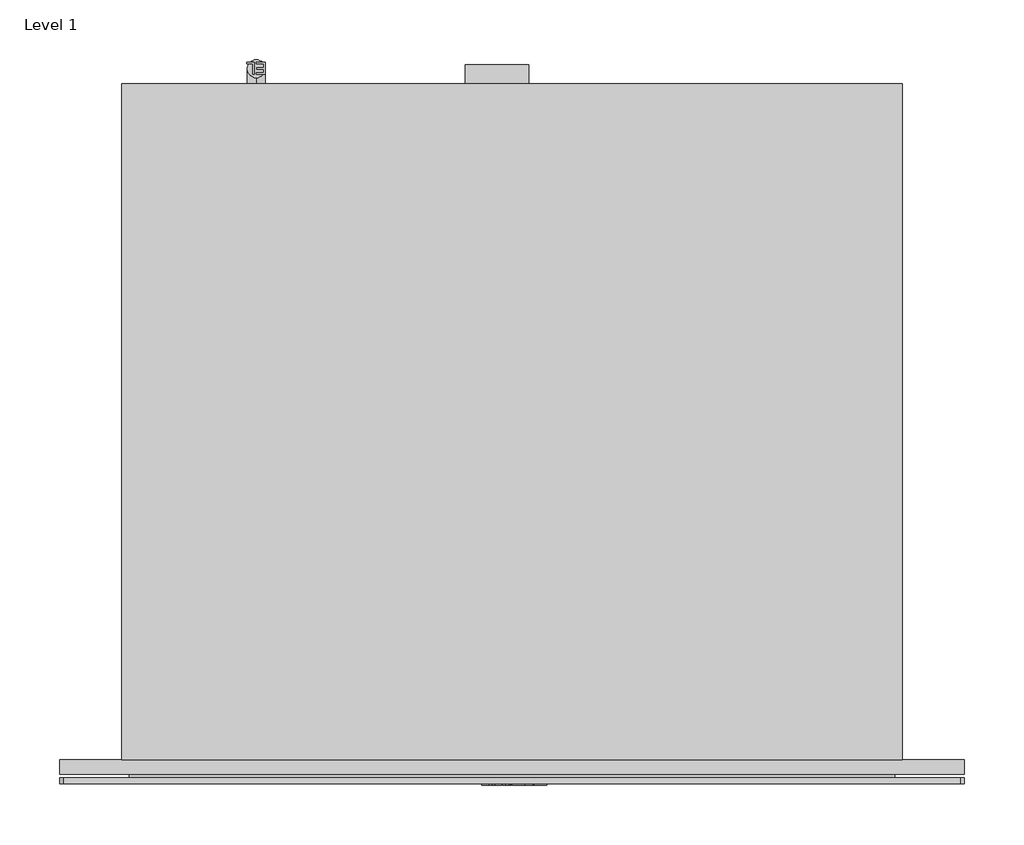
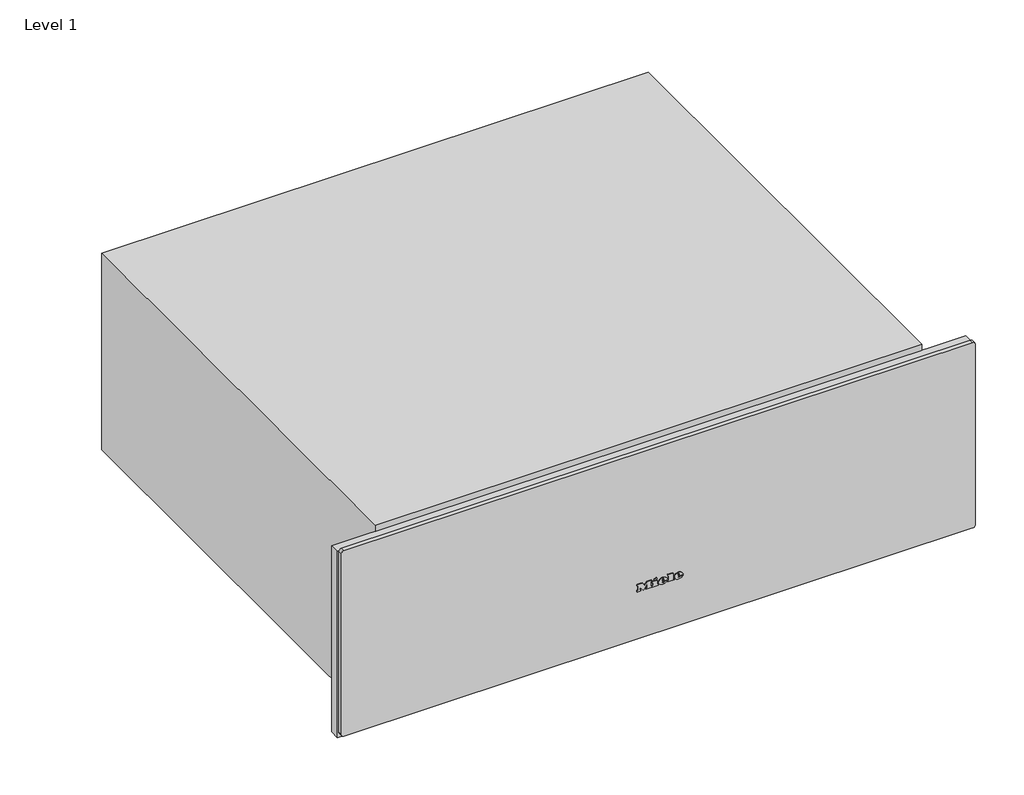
# One storey: 1 proxy.
"""IFC4 building model written with IfcOpenShell, lengths in millimetres."""

import ifcopenshell
import ifcopenshell.guid

model = None  # the IFC model being written
_history = None  # IfcOwnerHistory: only IFC2X3 demands one
_inside = {}  # id of a spatial element -> (the spatial element, [elements in it])
_under = {}  # id of a project, library or spatial element -> (it, [spatial elements below it])
_declared = {}  # id of a project -> (the project, [libraries it declares])
_typed = {}  # id of a type object -> (the type object, [elements of that type])
_made_of = {}  # id of a material, layer set ... -> (it, [elements and type objects made of it])


def new_model(schema):
    """Start an empty IFC model of exactly this schema.

    Asked for "IFC4X3", IfcOpenShell would pick the latest addendum, in which some entities
    have other attributes; the version numbers below select the first issue.
    IFC2X3 requires an IfcOwnerHistory on every rooted entity: one is made here for all.
    """
    global model, _history
    if schema == "IFC4X3":
        model = ifcopenshell.file(schema_version=(4, 3, 0, 0))
    else:
        model = ifcopenshell.file(schema=schema)
    _inside.clear()
    _under.clear()
    _declared.clear()
    _typed.clear()
    _made_of.clear()
    _history = None
    if model.schema == "IFC2X3":
        org = make("IfcOrganization", Name="unknown")
        user = make(
            "IfcPersonAndOrganization",
            ThePerson=make("IfcPerson", FamilyName="unknown"),
            TheOrganization=org,
        )
        app = make(
            "IfcApplication",
            ApplicationDeveloper=org,
            Version="unknown",
            ApplicationFullName="unknown",
            ApplicationIdentifier="unknown",
        )
        _history = make(
            "IfcOwnerHistory",
            OwningUser=user,
            OwningApplication=app,
            ChangeAction="ADDED",
            CreationDate=0,
        )
    return model


def make(cls, **values):
    """One entity of the class cls with the attributes given. An attribute that is None is left unset."""
    return model.create_entity(
        cls, **{name: value for name, value in values.items() if value is not None}
    )


def rooted(cls, **values):
    """An entity with a GlobalId (a new one), such as an element, a storey or a relation."""
    return make(cls, GlobalId=ifcopenshell.guid.new(), OwnerHistory=_history, **values)


def si_unit(unit_type, name, prefix=None):
    """IfcSIUnit, for example si_unit("LENGTHUNIT", "METRE", prefix="MILLI")."""
    return make("IfcSIUnit", UnitType=unit_type, Prefix=prefix, Name=name)


def assignment(units):
    """IfcUnitAssignment: the units of a project."""
    return None if units is None else make("IfcUnitAssignment", Units=units)


def point(xyz):
    """IfcCartesianPoint."""
    return None if xyz is None else make("IfcCartesianPoint", Coordinates=xyz)


def direction(xyz):
    """IfcDirection."""
    return None if xyz is None else make("IfcDirection", DirectionRatios=xyz)


def frame(location, z_axis=None, x_axis=None):
    """IfcAxis2Placement3D, a coordinate frame: its origin and axes. An axis left out is left unset."""
    return make(
        "IfcAxis2Placement3D",
        Location=point(location),
        Axis=direction(z_axis),
        RefDirection=direction(x_axis),
    )


def frame_2d(location, x_axis=None):
    """IfcAxis2Placement2D, a coordinate frame in the plane: its origin and x axis."""
    return make(
        "IfcAxis2Placement2D", Location=point(location), RefDirection=direction(x_axis)
    )


def origin():
    """The frame at (0, 0, 0) with its axes left unset."""
    return frame((0.0, 0.0, 0.0))


def place(relative_to, where):
    """IfcLocalPlacement: puts the frame where relative to a parent placement (None: the world)."""
    return make(
        "IfcLocalPlacement", PlacementRelTo=relative_to, RelativePlacement=where
    )


def context(
    kind, dimensions, precision=None, world=None, true_north=None, identifier=None
):
    """IfcGeometricRepresentationContext, for example the 3D "Model" context."""
    return make(
        "IfcGeometricRepresentationContext",
        ContextIdentifier=identifier,
        ContextType=kind,
        CoordinateSpaceDimension=dimensions,
        Precision=precision,
        WorldCoordinateSystem=world,
        TrueNorth=true_north,
    )


def project(units=None, contexts=None):
    """IfcProject with its units and contexts."""
    return rooted(
        "IfcProject",
        Name="project",
        RepresentationContexts=contexts,
        UnitsInContext=assignment(units),
    )


def spatial(cls, under=None, at=None, **own):
    """A site, building, storey or space (cls), placed at a placement, below another one or the project."""
    s = rooted(cls, ObjectPlacement=at, **own)
    if under is not None:
        _under.setdefault(under.id(), (under, []))[1].append(s)
    return s


def polyline(points):
    """IfcPolyline through the points."""
    return make("IfcPolyline", Points=[point(p) for p in points])


def circle_curve(where, radius):
    """IfcCircle in the frame where."""
    return make("IfcCircle", Position=where, Radius=radius)


def ellipse_curve(where, semi_axis1, semi_axis2):
    """IfcEllipse in the frame where."""
    return make(
        "IfcEllipse", Position=where, SemiAxis1=semi_axis1, SemiAxis2=semi_axis2
    )


def trimmed(basis, trim1, trim2, sense, master):
    """IfcTrimmedCurve: the piece of a basis curve between two trims."""
    return make(
        "IfcTrimmedCurve",
        BasisCurve=basis,
        Trim1=trim1,
        Trim2=trim2,
        SenseAgreement=sense,
        MasterRepresentation=master,
    )


def segment(curve, same_sense, transition):
    """IfcCompositeCurveSegment."""
    return make(
        "IfcCompositeCurveSegment",
        Transition=transition,
        SameSense=same_sense,
        ParentCurve=curve,
    )


def composite_curve(segments, self_intersect=None):
    """IfcCompositeCurve: segments joined end to end."""
    return make("IfcCompositeCurve", Segments=segments, SelfIntersect=self_intersect)


def outline(outer, holes=None, kind="AREA"):
    """IfcArbitraryClosedProfileDef: a profile drawn as a closed curve; with holes, ...WithVoids."""
    if holes is None:
        return make("IfcArbitraryClosedProfileDef", ProfileType=kind, OuterCurve=outer)
    return make(
        "IfcArbitraryProfileDefWithVoids",
        ProfileType=kind,
        OuterCurve=outer,
        InnerCurves=holes,
    )


def extrude(swept, where, along, depth):
    """IfcExtrudedAreaSolid: the profile swept, set in the frame where, extruded along a direction by depth."""
    return make(
        "IfcExtrudedAreaSolid",
        SweptArea=swept,
        Position=where,
        ExtrudedDirection=direction(along),
        Depth=depth,
    )


def faces_of(points, faces, orient=None, outer=None):
    """IfcFace entities. A face is a list of loops; a loop is a list of indices into points, from 0.

    orient and outer hold one flag for each loop. By default every Orientation is true, the
    first loop of a face is its IfcFaceOuterBound and the others are IfcFaceBound.
    """
    made = []
    for i, loops in enumerate(faces):
        bounds = []
        for j, loop in enumerate(loops):
            is_outer = j == 0 if outer is None else outer[i][j]
            bounds.append(
                make(
                    "IfcFaceOuterBound" if is_outer else "IfcFaceBound",
                    Bound=make("IfcPolyLoop", Polygon=[points[k] for k in loop]),
                    Orientation=True if orient is None else orient[i][j],
                )
            )
        made.append(make("IfcFace", Bounds=bounds))
    return made


def faceted_brep(points, faces, orient=None, outer=None, voids=None):
    """IfcFacetedBrep: a solid bounded by flat faces; with voids (closed shells), ...WithVoids."""
    shared = [point(p) for p in points]
    hull = make("IfcClosedShell", CfsFaces=faces_of(shared, faces, orient, outer))
    if voids is None:
        return make("IfcFacetedBrep", Outer=hull)
    return make(
        "IfcFacetedBrepWithVoids",
        Outer=hull,
        Voids=[
            make(cls, CfsFaces=faces_of(shared, fs, o, b)) for cls, fs, o, b in voids
        ],
    )


def shape(context_of_items, identifier, shape_type, items):
    """IfcShapeRepresentation: the items that make up one representation, for example the "Body"."""
    return make(
        "IfcShapeRepresentation",
        ContextOfItems=context_of_items,
        RepresentationIdentifier=identifier,
        RepresentationType=shape_type,
        Items=items,
    )


def source(mapping_origin, context_of_items, identifier, shape_type, items):
    """IfcRepresentationMap: a shape defined once, which mapped items show again and again."""
    return make(
        "IfcRepresentationMap",
        MappingOrigin=mapping_origin,
        MappedRepresentation=shape(context_of_items, identifier, shape_type, items),
    )


def transform(
    local_origin,
    x_axis=None,
    y_axis=None,
    z_axis=None,
    scale=None,
    scale2=None,
    scale3=None,
    uniform=True,
):
    """IfcCartesianTransformationOperator3D, or its non-uniform kind. x_axis, y_axis, z_axis: its Axis1, 2, 3."""
    if uniform:
        return make(
            "IfcCartesianTransformationOperator3D",
            Axis1=direction(x_axis),
            Axis2=direction(y_axis),
            LocalOrigin=point(local_origin),
            Scale=scale,
            Axis3=direction(z_axis),
        )
    return make(
        "IfcCartesianTransformationOperator3DnonUniform",
        Axis1=direction(x_axis),
        Axis2=direction(y_axis),
        LocalOrigin=point(local_origin),
        Scale=scale,
        Axis3=direction(z_axis),
        Scale2=scale2,
        Scale3=scale3,
    )


def mapped(mapping_source, mapping_target):
    """IfcMappedItem: shows the shape of a source again, moved by a transform."""
    return make(
        "IfcMappedItem", MappingSource=mapping_source, MappingTarget=mapping_target
    )


def made_of(thing, what):
    """Note that an element or type object is made of a material, layer set ...; save() writes the relation."""
    if what is not None:
        _made_of.setdefault(what.id(), (what, []))[1].append(thing)
    return thing


def element(
    cls,
    number,
    at=None,
    inside=None,
    cuts=None,
    type_object=None,
    material=None,
    context=None,
    identifier="Body",
    shape_type=None,
    held_by="IfcProductDefinitionShape",
    body=None,
    shapes=None,
    **own,
):
    """One element of the class cls, such as IfcWall. Its Tag is "e" and its number.

    at: its placement. inside: the storey or other place that contains it. cuts: it is an
    opening in that element (IfcRelVoidsElement). A single representation is given by context,
    identifier, shape_type and body (its items); several are given by shapes. held_by: the class
    of the entity that holds the representations. save() writes the other relations.
    """
    e = rooted(cls, Tag="e%d" % number, ObjectPlacement=at, **own)
    if body is not None:
        shapes = [shape(context, identifier, shape_type, body)]
    if shapes is not None:
        e.Representation = make(held_by, Representations=shapes)
    if inside is not None:
        _inside.setdefault(inside.id(), (inside, []))[1].append(e)
    if cuts is not None:
        rooted(
            "IfcRelVoidsElement", RelatingBuildingElement=cuts, RelatedOpeningElement=e
        )
    if type_object is not None:
        _typed.setdefault(type_object.id(), (type_object, []))[1].append(e)
    return made_of(e, material)


def aggregate(whole, parts):
    """IfcRelAggregates: a whole, such as a stair, and the parts it consists of."""
    return rooted("IfcRelAggregates", RelatingObject=whole, RelatedObjects=parts)


def save(model, path):
    """Write the relations noted so far, then the file.

    IfcRelAggregates (storeys below a building ...), IfcRelContainedInSpatialStructure (elements
    in a storey), IfcRelDefinesByType, IfcRelAssociatesMaterial and IfcRelDeclares: one each for
    every whole, place, type object, material and project.
    """
    for whole, parts in _under.values():
        aggregate(whole, parts)
    for where, things in _inside.values():
        rooted(
            "IfcRelContainedInSpatialStructure",
            RelatedElements=things,
            RelatingStructure=where,
        )
    for kind, things in _typed.values():
        rooted("IfcRelDefinesByType", RelatedObjects=things, RelatingType=kind)
    for what, things in _made_of.values():
        rooted("IfcRelAssociatesMaterial", RelatedObjects=things, RelatingMaterial=what)
    for by, libraries in _declared.values():
        rooted("IfcRelDeclares", RelatingContext=by, RelatedDefinitions=libraries)
    model.write(path)


def plane_surface(at):
    """IfcPlane: the flat surface through the origin of the frame at, square to its z axis."""
    return make("IfcPlane", Position=at)


def cylinder_surface(at, radius):
    """IfcCylindricalSurface: all points at the distance radius from the z axis of the frame at."""
    return make("IfcCylindricalSurface", Position=at, Radius=radius)


def revolved_surface(curve, axis_point, axis_direction):
    """IfcSurfaceOfRevolution: the curve turned about the line through axis_point along axis_direction."""
    return make(
        "IfcSurfaceOfRevolution",
        SweptCurve=make("IfcArbitraryOpenProfileDef", ProfileType="CURVE", Curve=curve),
        AxisPosition=make("IfcAxis1Placement", Location=point(axis_point), Axis=direction(axis_direction)),
    )


def extruded_surface(curve, direction_of_extrusion, depth):
    """IfcSurfaceOfLinearExtrusion: the curve pushed along a direction by depth."""
    return make(
        "IfcSurfaceOfLinearExtrusion",
        SweptCurve=make("IfcArbitraryOpenProfileDef", ProfileType="CURVE", Curve=curve),
        ExtrudedDirection=direction(direction_of_extrusion),
        Depth=depth,
    )


def advanced_brep(points, edges, surfaces, faces):
    """IfcAdvancedBrep: a solid bounded by faces that lie on surfaces and meet in shared edges.

    An edge is (start, end): straight between two places in points (the first is 0);
    or (start, end, curve); or (start, end, curve, False) where it runs against its curve.
    A face is (place in surfaces, loops), or (place, loops, False) where it looks against
    its surface's normal. A loop lists edges by number (the first is 1), with a minus sign
    where the edge is run from its end to its start. The first loop is the outer one.
    """
    corners = [point(p) for p in points]
    vertices = [make("IfcVertexPoint", VertexGeometry=c) for c in corners]
    made = []
    for start, end, *more in edges:
        made.append(
            make(
                "IfcEdgeCurve",
                EdgeStart=vertices[start],
                EdgeEnd=vertices[end],
                EdgeGeometry=more[0] if more else make("IfcPolyline", Points=[corners[start], corners[end]]),
                SameSense=more[1] if len(more) > 1 else True,
            )
        )
    hull = []
    for where, loops, *sense in faces:
        bounds = []
        for j, loop in enumerate(loops):
            ring = [make("IfcOrientedEdge", EdgeElement=made[abs(k) - 1], Orientation=k > 0) for k in loop]
            bounds.append(
                make(
                    "IfcFaceOuterBound" if j == 0 else "IfcFaceBound",
                    Bound=make("IfcEdgeLoop", EdgeList=ring),
                    Orientation=True,
                )
            )
        hull.append(make("IfcAdvancedFace", Bounds=bounds, FaceSurface=surfaces[where], SameSense=sense[0] if sense else True))
    return make("IfcAdvancedBrep", Outer=make("IfcClosedShell", CfsFaces=hull))


def specialty_equipment_61e02f17(model_context):
    return source(origin(), model_context, "Body", "SolidModel", [
        advanced_brep(
        [(23.263, -21.0, 73.133), (23.263, -21.0, 74.042), (29.284, -21.0, 74.042), (18.808, -21.0, 74.042), (21.283, -21.0, 71.0), (29.131, -21.0, 73.133), (26.413, -21.0, 73.133), (24.271, -21.0, 72.125), (23.263, -21.0, 75.194), (23.263, -21.0, 76.175), (24.802, -21.0, 76.175), (24.802, -21.0, 75.194), (23.263, -20.0, 73.133), (24.271, -20.0, 72.125), (26.413, -20.0, 73.133), (29.131, -20.0, 73.133), (21.283, -20.0, 71.0), (18.808, -20.0, 74.042), (29.284, -20.0, 74.042), (23.263, -20.0, 74.042), (23.263, -20.0, 75.194), (24.802, -20.0, 75.194), (24.802, -20.0, 76.175), (23.263, -20.0, 76.175)],
        [
            (0, 1),
            (1, 2),
            (2, 3, ellipse_curve(frame((24.046, -21.0, 74.042), z_axis=(0.0, -1.0, 0.0), x_axis=(-1.0, 0.0, 0.0)), 5.238, 4.329)),
            (3, 4, circle_curve(frame((22.2910491, -21.0, 74.348), z_axis=(0.0, -1.0, 0.0), x_axis=(0.0, 0.0, -1.0)), 3.4964649)),
            (4, 5, circle_curve(frame((23.9411428, -21.0, 76.724), z_axis=(0.0, -1.0, 0.0), x_axis=(0.0, 0.0, -1.0)), 6.3110933)),
            (5, 6),
            (6, 7, circle_curve(frame((24.7109412, -21.0, 73.97), z_axis=(0.0, 1.0, 0.0), x_axis=(0.0, 0.0, -1.0)), 1.896727)),
            (7, 0, circle_curve(frame((24.271, -21.0, 73.133), z_axis=(0.0, 1.0, 0.0), x_axis=(0.0, 0.0, -1.0)), 1.008)),
            (8, 9),
            (9, 10, circle_curve(frame((24.0325, -21.0, 76.175), z_axis=(0.0, 1.0, 0.0), x_axis=(0.0, 0.0, -1.0)), 0.7695)),
            (10, 11),
            (11, 8),
            (12, 13, circle_curve(frame((24.271, -20.0, 73.133), z_axis=(0.0, -1.0, 0.0), x_axis=(0.0, 0.0, -1.0)), 1.008)),
            (13, 14, circle_curve(frame((24.7109412, -20.0, 73.97), z_axis=(0.0, -1.0, 0.0), x_axis=(0.0, 0.0, -1.0)), 1.896727)),
            (14, 15),
            (15, 16, circle_curve(frame((23.9411428, -20.0, 76.724), z_axis=(0.0, 1.0, 0.0), x_axis=(0.0, 0.0, -1.0)), 6.3110933)),
            (16, 17, circle_curve(frame((22.2910491, -20.0, 74.348), z_axis=(0.0, 1.0, 0.0), x_axis=(0.0, 0.0, -1.0)), 3.4964649)),
            (17, 18, ellipse_curve(frame((24.046, -20.0, 74.042), z_axis=(0.0, 1.0, 0.0), x_axis=(-1.0, 0.0, 0.0)), 5.238, 4.329)),
            (18, 19),
            (19, 12),
            (20, 21),
            (21, 22),
            (22, 23, circle_curve(frame((24.0325, -20.0, 76.175), z_axis=(0.0, -1.0, 0.0), x_axis=(0.0, 0.0, -1.0)), 0.7695)),
            (23, 20),
            (0, 12),
            (19, 1),
            (18, 2),
            (5, 15),
            (14, 6),
            (17, 3),
            (13, 7),
            (16, 4),
            (8, 20),
            (23, 9),
            (22, 10),
            (21, 11),
        ],
        [
            plane_surface(frame((23.263, -21.0, 74.042), z_axis=(0.0, -1.0, 0.0), x_axis=(0.0, 0.0, 1.0))),
            plane_surface(frame((23.263, -20.0, 74.042), z_axis=(0.0, 1.0, 0.0), x_axis=(0.0, 0.0, -1.0))),
            plane_surface(frame((23.263, -21.0, 73.133), z_axis=(1.0, 0.0, 0.0), x_axis=(0.0, 1.0, 0.0))),
            plane_surface(frame((23.263, -21.0, 74.042), z_axis=(0.0, 0.0, -1.0), x_axis=(0.0, 1.0, 0.0))),
            plane_surface(frame((29.131, -21.0, 73.133), z_axis=(0.0, 0.0, 1.0), x_axis=(0.0, 1.0, 0.0))),
            extruded_surface(trimmed(ellipse_curve(frame((24.046, -19.0, 74.042), z_axis=(0.0, -1.0, 0.0), x_axis=(-1.0, 0.0, 0.0)), 5.238, 4.329), [point((29.284, -19.0, 74.042))], [point((18.808, -19.0, 74.042))], True, "CARTESIAN"), (0.0, -1.0, 0.0), 1.0),
            revolved_surface(polyline([(24.7109412, -20.0, 72.073273), (24.7109412, -21.0, 72.073273)]), (24.7109412, -20.0, 73.97), (0.0, 1.0, 0.0)),
            revolved_surface(polyline([(24.271, -20.0, 72.125), (24.271, -21.0, 72.125)]), (24.271, -20.0, 73.133), (0.0, 1.0, 0.0)),
            cylinder_surface(frame((22.2910491, -20.0, 74.348), z_axis=(0.0, -1.0, 0.0), x_axis=(0.0, 0.0, -1.0)), 3.4964649),
            cylinder_surface(frame((23.9411428, -20.0, 76.724), z_axis=(0.0, -1.0, 0.0), x_axis=(0.0, 0.0, -1.0)), 6.3110933),
            plane_surface(frame((23.263, -21.0, 75.194), z_axis=(1.0, 0.0, 0.0), x_axis=(0.0, 1.0, 0.0))),
            revolved_surface(polyline([(24.0325, -20.0, 75.4055), (24.0325, -21.0, 75.4055)]), (24.0325, -20.0, 76.175), (0.0, 1.0, 0.0)),
            plane_surface(frame((24.802, -21.0, 76.175), z_axis=(-1.0, 0.0, 0.0), x_axis=(0.0, 1.0, 0.0))),
            plane_surface(frame((24.802, -21.0, 75.194), z_axis=(0.0, 0.0, 1.0), x_axis=(0.0, 1.0, 0.0))),
        ],
        [
            (0, [[1, 2, 3, 4, 5, 6, 7, 8], [9, 10, 11, 12]]),
            (1, [[13, 14, 15, 16, 17, 18, 19, 20], [21, 22, 23, 24]]),
            (2, [[-1, 25, -20, 26]]),
            (3, [[-2, -26, -19, 27]]),
            (4, [[-6, 28, -15, 29]]),
            (5, [[-3, -27, -18, 30]]),
            (6, [[-7, -29, -14, 31]]),
            (7, [[-8, -31, -13, -25]]),
            (8, [[-4, -30, -17, 32]]),
            (9, [[-5, -32, -16, -28]]),
            (10, [[-9, 33, -24, 34]]),
            (11, [[-10, -34, -23, 35]]),
            (12, [[-11, -35, -22, 36]]),
            (13, [[-12, -36, -21, -33]]),
        ],
    ),
        advanced_brep(
        [(4.48, -21.0, 73.133), (4.48, -21.0, 74.042), (10.501, -21.0, 74.042), (0.025, -21.0, 74.042), (2.5, -21.0, 71.0), (10.348, -21.0, 73.133), (7.63, -21.0, 73.133), (5.488, -21.0, 72.125), (4.48, -21.0, 75.194), (4.48, -21.0, 76.175), (6.019, -21.0, 76.175), (6.019, -21.0, 75.194), (4.48, -20.0, 73.133), (5.488, -20.0, 72.125), (7.63, -20.0, 73.133), (10.348, -20.0, 73.133), (2.5, -20.0, 71.0), (0.025, -20.0, 74.042), (10.501, -20.0, 74.042), (4.48, -20.0, 74.042), (4.48, -20.0, 75.194), (6.019, -20.0, 75.194), (6.019, -20.0, 76.175), (4.48, -20.0, 76.175)],
        [
            (0, 1),
            (1, 2),
            (2, 3, ellipse_curve(frame((5.263, -21.0, 74.042), z_axis=(0.0, -1.0, 0.0), x_axis=(-1.0, 0.0, 0.0)), 5.238, 4.329)),
            (3, 4, circle_curve(frame((3.5080491, -21.0, 74.348), z_axis=(0.0, -1.0, 0.0), x_axis=(0.0, 0.0, -1.0)), 3.4964649)),
            (4, 5, circle_curve(frame((5.1581428, -21.0, 76.724), z_axis=(0.0, -1.0, 0.0), x_axis=(0.0, 0.0, -1.0)), 6.3110933)),
            (5, 6),
            (6, 7, circle_curve(frame((5.9279412, -21.0, 73.97), z_axis=(0.0, 1.0, 0.0), x_axis=(0.0, 0.0, -1.0)), 1.896727)),
            (7, 0, circle_curve(frame((5.488, -21.0, 73.133), z_axis=(0.0, 1.0, 0.0), x_axis=(0.0, 0.0, -1.0)), 1.008)),
            (8, 9),
            (9, 10, circle_curve(frame((5.2495, -21.0, 76.175), z_axis=(0.0, 1.0, 0.0), x_axis=(0.0, 0.0, -1.0)), 0.7695)),
            (10, 11),
            (11, 8),
            (12, 13, circle_curve(frame((5.488, -20.0, 73.133), z_axis=(0.0, -1.0, 0.0), x_axis=(0.0, 0.0, -1.0)), 1.008)),
            (13, 14, circle_curve(frame((5.9279412, -20.0, 73.97), z_axis=(0.0, -1.0, 0.0), x_axis=(0.0, 0.0, -1.0)), 1.896727)),
            (14, 15),
            (15, 16, circle_curve(frame((5.1581428, -20.0, 76.724), z_axis=(0.0, 1.0, 0.0), x_axis=(0.0, 0.0, -1.0)), 6.3110933)),
            (16, 17, circle_curve(frame((3.5080491, -20.0, 74.348), z_axis=(0.0, 1.0, 0.0), x_axis=(0.0, 0.0, -1.0)), 3.4964649)),
            (17, 18, ellipse_curve(frame((5.263, -20.0, 74.042), z_axis=(0.0, 1.0, 0.0), x_axis=(-1.0, 0.0, 0.0)), 5.238, 4.329)),
            (18, 19),
            (19, 12),
            (20, 21),
            (21, 22),
            (22, 23, circle_curve(frame((5.2495, -20.0, 76.175), z_axis=(0.0, -1.0, 0.0), x_axis=(0.0, 0.0, -1.0)), 0.7695)),
            (23, 20),
            (0, 12),
            (19, 1),
            (18, 2),
            (5, 15),
            (14, 6),
            (17, 3),
            (13, 7),
            (16, 4),
            (8, 20),
            (23, 9),
            (22, 10),
            (21, 11),
        ],
        [
            plane_surface(frame((4.48, -21.0, 74.042), z_axis=(0.0, -1.0, 0.0), x_axis=(0.0, 0.0, 1.0))),
            plane_surface(frame((4.48, -20.0, 74.042), z_axis=(0.0, 1.0, 0.0), x_axis=(0.0, 0.0, -1.0))),
            plane_surface(frame((4.48, -21.0, 73.133), z_axis=(1.0, 0.0, 0.0), x_axis=(0.0, 1.0, 0.0))),
            plane_surface(frame((4.48, -21.0, 74.042), z_axis=(0.0, 0.0, -1.0), x_axis=(0.0, 1.0, 0.0))),
            plane_surface(frame((10.348, -21.0, 73.133), z_axis=(0.0, 0.0, 1.0), x_axis=(0.0, 1.0, 0.0))),
            extruded_surface(trimmed(ellipse_curve(frame((5.263, -19.0, 74.042), z_axis=(0.0, -1.0, 0.0), x_axis=(-1.0, 0.0, 0.0)), 5.238, 4.329), [point((10.501, -19.0, 74.042))], [point((0.025, -19.0, 74.042))], True, "CARTESIAN"), (0.0, -1.0, 0.0), 1.0),
            revolved_surface(polyline([(5.9279412, -20.0, 72.073273), (5.9279412, -21.0, 72.073273)]), (5.9279412, -20.0, 73.97), (0.0, 1.0, 0.0)),
            revolved_surface(polyline([(5.488, -20.0, 72.125), (5.488, -21.0, 72.125)]), (5.488, -20.0, 73.133), (0.0, 1.0, 0.0)),
            cylinder_surface(frame((3.5080491, -20.0, 74.348), z_axis=(0.0, -1.0, 0.0), x_axis=(0.0, 0.0, -1.0)), 3.4964649),
            cylinder_surface(frame((5.1581428, -20.0, 76.724), z_axis=(0.0, -1.0, 0.0), x_axis=(0.0, 0.0, -1.0)), 6.3110933),
            plane_surface(frame((4.48, -21.0, 75.194), z_axis=(1.0, 0.0, 0.0), x_axis=(0.0, 1.0, 0.0))),
            revolved_surface(polyline([(5.2495, -20.0, 75.4055), (5.2495, -21.0, 75.4055)]), (5.2495, -20.0, 76.175), (0.0, 1.0, 0.0)),
            plane_surface(frame((6.019, -21.0, 76.175), z_axis=(-1.0, 0.0, 0.0), x_axis=(0.0, 1.0, 0.0))),
            plane_surface(frame((6.019, -21.0, 75.194), z_axis=(0.0, 0.0, 1.0), x_axis=(0.0, 1.0, 0.0))),
        ],
        [
            (0, [[1, 2, 3, 4, 5, 6, 7, 8], [9, 10, 11, 12]]),
            (1, [[13, 14, 15, 16, 17, 18, 19, 20], [21, 22, 23, 24]]),
            (2, [[-1, 25, -20, 26]]),
            (3, [[-2, -26, -19, 27]]),
            (4, [[-6, 28, -15, 29]]),
            (5, [[-3, -27, -18, 30]]),
            (6, [[-7, -29, -14, 31]]),
            (7, [[-8, -31, -13, -25]]),
            (8, [[-4, -30, -17, 32]]),
            (9, [[-5, -32, -16, -28]]),
            (10, [[-9, 33, -24, 34]]),
            (11, [[-10, -34, -23, 35]]),
            (12, [[-11, -35, -22, 36]]),
            (13, [[-12, -36, -21, -33]]),
        ],
    ),
        extrude(outline(polyline([(79.469, -5.357), (78.011, -4.673), (79.433, -1.622), (80.891, -2.297), (79.469, -5.357)])), frame((0.0, -21.0, 0.0), z_axis=(0.0, 1.0, 0.0), x_axis=(0.0, 0.0, 1.0)), (0.0, 0.0, 1.0), 1.0),
        extrude(outline(polyline([(77.813, -7.58), (76.202, -7.58), (76.202, -6.509), (72.512, -6.509), (72.512, -7.58), (71.0, -7.58), (71.0, -0.479), (72.512, -0.479), (72.512, -1.523), (77.813, -1.523), (77.813, -7.58)])), frame((0.0, -21.0, 0.0), z_axis=(0.0, 1.0, 0.0), x_axis=(0.0, 0.0, 1.0)), (0.0, 0.0, 1.0), 1.0),
        extrude(outline(polyline([(78.533, 11.005), (78.533, 12.085), (72.512, 12.085), (72.512, 11.005), (71.0, 11.005), (71.0, 18.304), (72.512, 18.304), (72.512, 17.197), (80.0, 17.197), (80.0, 11.005), (78.533, 11.005)])), frame((0.0, -21.0, 0.0), z_axis=(0.0, 1.0, 0.0), x_axis=(0.0, 0.0, 1.0)), (0.0, 0.0, 1.0), 1.0),
        extrude(outline(polyline([(78.533, -25.517), (78.533, -24.428), (72.512, -24.428), (72.512, -25.517), (71.0, -25.517), (71.0, -21.557), (72.512, -21.557), (72.512, -22.637), (76.3341247, -22.637), (71.0, -18.614), (76.4402223, -14.573), (72.512, -14.573), (72.512, -15.68), (71.0, -15.68), (71.0, -8.498), (72.512, -8.498), (72.512, -9.641), (78.533, -9.641), (78.533, -8.498), (80.0, -8.498), (80.0, -13.979), (76.625, -16.607), (80.0, -19.244), (80.0, -25.517), (78.533, -25.517)])), frame((0.0, -21.0, 0.0), z_axis=(0.0, 1.0, 0.0), x_axis=(0.0, 0.0, 1.0)), (0.0, 0.0, 1.0), 1.0),
        extrude(outline(polyline([(20.0, 230.0), (20.0, 189.0), (5.0, 189.0), (5.0, 46.0), (-12.0, 46.0), (-12.0, 230.0), (20.0, 230.0)])), frame((-316.5, 0.0, 0.0), z_axis=(1.0, 0.0, 0.0), x_axis=(0.0, 1.0, 0.0)), (0.0, 0.0, 1.0), 633.0),
        extrude(outline(composite_curve([segment(polyline([(245.0, 375.5), (245.0, -375.5)]), True, "CONTINUOUS"), segment(trimmed(circle_curve(frame_2d((242.0, -375.5)), 3.0), [point((245.0, -375.5))], [point((242.0, -378.5))], False, "CARTESIAN"), True, "CONTINUOUS"), segment(polyline([(242.0, -378.5), (14.0, -378.5)]), True, "CONTINUOUS"), segment(trimmed(circle_curve(frame_2d((14.0, -375.5)), 3.0), [point((14.0, -378.5))], [point((11.0, -375.5))], False, "CARTESIAN"), True, "CONTINUOUS"), segment(polyline([(11.0, -375.5), (11.0, 375.5)]), True, "CONTINUOUS"), segment(trimmed(circle_curve(frame_2d((14.0, 375.5)), 3.0), [point((11.0, 375.5))], [point((14.0, 378.5))], False, "CARTESIAN"), True, "CONTINUOUS"), segment(polyline([(14.0, 378.5), (242.0, 378.5)]), True, "CONTINUOUS"), segment(trimmed(circle_curve(frame_2d((242.0, 375.5)), 3.0), [point((242.0, 378.5))], [point((245.0, 375.5))], False, "CARTESIAN"), True, "CONTINUOUS")], self_intersect=False)), frame((0.0, -20.0, 0.0), z_axis=(0.0, 1.0, 0.0), x_axis=(0.0, 0.0, 1.0)), (0.0, 0.0, 1.0), 5.0),
        extrude(outline(polyline([(-320.5, -12.0), (320.5, -12.0), (320.5, -15.0), (-320.5, -15.0), (-320.5, -12.0)])), frame((0.0, 0.0, 19.0), z_axis=(0.0, 0.0, 1.0), x_axis=(1.0, 0.0, 0.0)), (0.0, 0.0, 1.0), 219.0),
        extrude(outline(polyline([(-206.6227397, 584.030815), (-206.6227397, 573.985184), (-213.843037, 573.985184), (-213.843037, 575.2408878), (-207.8784436, 575.2408878), (-207.8784436, 578.2231846), (-213.529111, 578.2231846), (-213.529111, 579.4788884), (-207.8784436, 579.4788884), (-207.8784436, 582.7751111), (-214.0, 582.7751111), (-214.0, 584.030815), (-206.6227397, 584.030815)])), frame((0.0, 0.0, 49.0), z_axis=(0.0, 0.0, 1.0), x_axis=(1.0, 0.0, 0.0)), (0.0, 0.0, 1.0), 1.0),
        extrude(outline(polyline([(-215.8835558, 584.030815), (-215.8835558, 573.985184), (-217.1392597, 573.985184), (-217.1392597, 582.7751111), (-222.1620752, 582.7751111), (-222.1620752, 584.030815), (-215.8835558, 584.030815)])), frame((0.0, 0.0, 49.0), z_axis=(0.0, 0.0, 1.0), x_axis=(1.0, 0.0, 0.0)), (0.0, 0.0, 1.0), 1.0),
        advanced_brep(
        [(-214.0, 566.0, 26.5), (-214.0, 566.0, 11.5), (-214.0, 571.0, 26.5), (-214.0, 586.0, 11.5), (-214.0, 571.0, 49.0), (-214.0, 586.0, 49.0)],
        [
            (0, 1, circle_curve(frame((-214.0, 566.0, 19.0), z_axis=(0.0, -1.0, 0.0), x_axis=(0.0, 0.0, -1.0)), 7.5)),
            (1, 0, circle_curve(frame((-214.0, 566.0, 19.0), z_axis=(0.0, -1.0, 0.0), x_axis=(0.0, 0.0, -1.0)), 7.5)),
            (0, 2),
            (2, 3, ellipse_curve(frame((-214.0, 578.5, 19.0), z_axis=(0.0, -0.7071067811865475, -0.7071067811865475), x_axis=(0.0, -0.7071067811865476, 0.7071067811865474)), 10.6066017, 7.5)),
            (3, 1),
            (3, 2, ellipse_curve(frame((-214.0, 578.5, 19.0), z_axis=(0.0, -0.7071067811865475, -0.7071067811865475), x_axis=(0.0, -0.7071067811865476, 0.7071067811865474)), 10.6066017, 7.5)),
            (4, 5, circle_curve(frame((-214.0, 578.5, 49.0), z_axis=(0.0, 0.0, 1.0), x_axis=(0.0, 1.0, 0.0)), 7.5)),
            (5, 4, circle_curve(frame((-214.0, 578.5, 49.0), z_axis=(0.0, 0.0, 1.0), x_axis=(0.0, 1.0, 0.0)), 7.5)),
            (2, 4),
            (5, 3),
        ],
        [
            plane_surface(frame((-214.0, 566.0, 19.0), z_axis=(0.0, -1.0, 0.0), x_axis=(-1.0, 0.0, 0.0))),
            cylinder_surface(frame((-214.0, 566.0, 19.0), z_axis=(0.0, -1.0, 0.0), x_axis=(0.0, 0.0, -1.0)), 7.5),
            plane_surface(frame((-214.0, 578.5, 49.0), z_axis=(0.0, 0.0, 1.0), x_axis=(-1.0, 0.0, 0.0))),
            cylinder_surface(frame((-214.0, 578.5, 19.0), z_axis=(0.0, 0.0, -1.0), x_axis=(0.0, 1.0, 0.0)), 7.5),
        ],
        [
            (0, [[1, 2]]),
            (1, [[-1, 3, 4, 5]]),
            (1, [[-2, -5, 6, -3]]),
            (2, [[7, 8]]),
            (3, [[-4, 9, -8, 10]]),
            (3, [[-6, -10, -7, -9]]),
        ],
    ),
        extrude(outline(polyline([(-39.0, 582.0), (14.0, 582.0), (14.0, 566.0), (-39.0, 566.0), (-39.0, 582.0)])), frame((0.0, 0.0, 16.0), z_axis=(0.0, 0.0, 1.0), x_axis=(1.0, 0.0, 0.0)), (0.0, 0.0, 1.0), 29.0),
        faceted_brep([(326.5, 566.0, 248.0), (-326.5, 566.0, 248.0), (-326.5, 0.0, 248.0), (326.5, 0.0, 248.0), (326.5, 566.0, 0.0), (326.5, 0.0, 0.0), (-326.5, 0.0, 0.0), (-326.5, 566.0, 0.0), (324.5, 0.0, 236.0), (324.5, 0.0, 13.0), (-324.5, 0.0, 13.0), (-324.5, 0.0, 236.0), (324.5, 561.0, 236.0), (-324.5, 561.0, 236.0), (-324.5, 561.0, 13.0), (324.5, 561.0, 13.0)], [[[0, 1, 2, 3]], [[4, 5, 6, 7]], [[1, 0, 4, 7]], [[2, 1, 7, 6]], [[3, 2, 6, 5], [8, 9, 10, 11]], [[0, 3, 5, 4]], [[12, 13, 14, 15]], [[12, 15, 9, 8]], [[15, 14, 10, 9]], [[14, 13, 11, 10]], [[13, 12, 8, 11]]]),
        faceted_brep([(378.5, -12.0, 240.5), (-378.5, -12.0, 240.5), (-378.5, -12.0, 5.5), (-324.5, -12.0, 5.5), (-324.5, -12.0, 13.0), (-324.5, -12.0, 236.0), (324.5, -12.0, 236.0), (324.5, -12.0, 13.0), (324.5, -12.0, 5.5), (378.5, -12.0, 5.5), (378.5, 0.0, 240.5), (378.5, 0.0, 5.5), (324.5, 0.0, 5.5), (324.5, 0.0, 13.0), (324.5, 0.0, 236.0), (-324.5, 0.0, 236.0), (-324.5, 0.0, 13.0), (-324.5, 0.0, 5.5), (-378.5, 0.0, 5.5), (-378.5, 0.0, 240.5)], [[[0, 1, 2, 3, 4, 5, 6, 7, 8, 9]], [[10, 11, 12, 13, 14, 15, 16, 17, 18, 19]], [[0, 9, 11, 10]], [[9, 8, 12, 11]], [[2, 1, 19, 18]], [[1, 0, 10, 19]], [[12, 8, 7, 6, 14, 13]], [[6, 5, 15, 14]], [[15, 5, 4, 3, 17, 16]], [[3, 2, 18, 17]]]),
    ])


model = new_model("IFC4")

# Units and contexts
model_context = context("Model", 3, world=origin())
ifc_project = project(units=[si_unit("LENGTHUNIT", "METRE", prefix="MILLI")], contexts=[model_context])

# Site, building, storey
site = spatial("IfcSite", under=ifc_project)
building = spatial("IfcBuilding", under=site)
storey = spatial("IfcBuildingStorey", under=building, Name="Level 1", Elevation=0.0)

# Proxy
placement = place(None, origin())
specialty_equipment_shape = specialty_equipment_61e02f17(model_context)
element("IfcBuildingElementProxy", 1, Name="11794790_USA_ESW7570_EDST-CLST : 30757040_USA_11794790_ESW7570_EDST-CLST", ObjectType="11794790_USA_ESW7570_EDST-CLST : 30757040_USA_11794790_ESW7570_EDST-CLST", at=placement, inside=storey, context=model_context, shape_type="MappedRepresentation", body=[
    mapped(specialty_equipment_shape, transform((0.0, 0.0, 0.0), x_axis=(1.0, 0.0, 0.0), y_axis=(0.0, 1.0, 0.0), z_axis=(0.0, 0.0, 1.0))),
])

save(model, "model.ifc")
